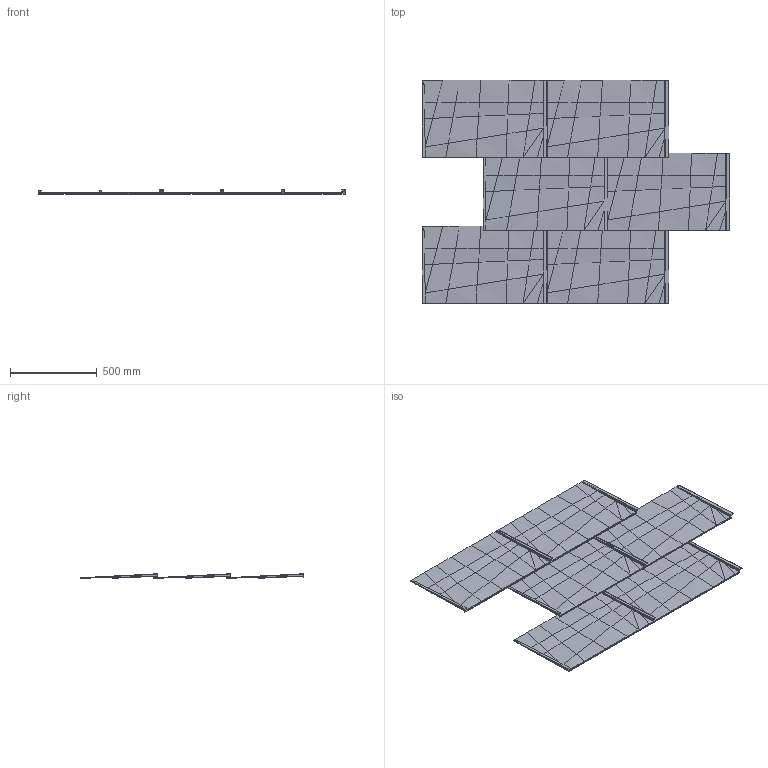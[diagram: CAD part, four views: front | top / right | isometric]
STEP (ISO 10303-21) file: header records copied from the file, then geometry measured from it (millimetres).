
FILE_DESCRIPTION(/* description */ (''),/* implementation_level */ '2;1');
FILE_NAME(/* name */ 'PREFA_FX',/* time_stamp */ '2020-07-21T11:50:50+02:00',/* author */ (''),/* organization */ (''),/* preprocessor_version */ 'ST-DEVELOPER v15',/* originating_system */ '',/* authorisation */ '');
FILE_SCHEMA (('AUTOMOTIVE_DESIGN'));
Length unit declared in the file: millimetre
Products named in the file (1): Document
Bounding box: 1767.8 x 1287.9 x 25.48 mm (x, y, z)
Surface area: 2079276.9 mm2 (no closed solid volume)
Topology: 0 solids, 24 shells, 252 faces, 670 edges, 452 vertices
Faces by surface type: bspline 228, plane 24
Entity records: 8657 total; most frequent: CARTESIAN_POINT 4853, ORIENTED_EDGE 978, EDGE_CURVE 660, B_SPLINE_CURVE_WITH_KNOTS 592, VERTEX_POINT 432, ADVANCED_FACE 252, FACE_OUTER_BOUND 252, EDGE_LOOP 252
